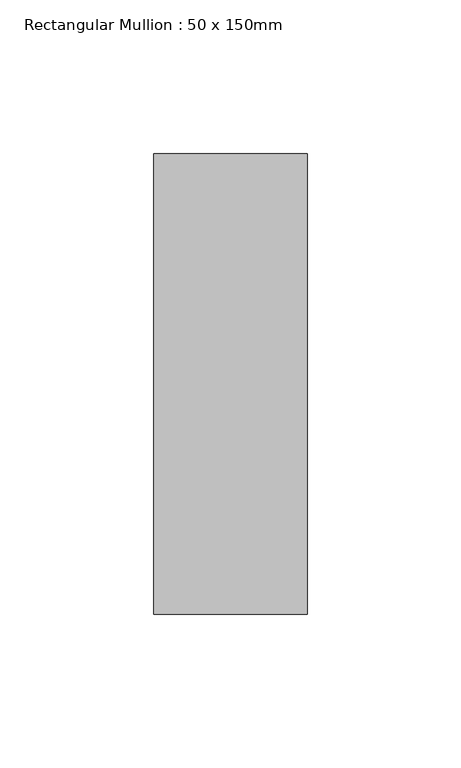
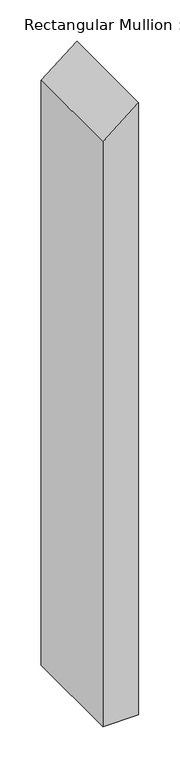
"""IFC4 building model written with IfcOpenShell, lengths in millimetres: member geometry, Rectangular Mullion : 50 x 150mm."""

from ifc_helpers import new_model, si_unit, frame, origin, place, context, project, spatial, polyline, outline, extrude, source, transform, mapped, element, save


def rectangular_mullion_50_x_150mm_b576d631(model_context):
    return source(origin(), model_context, "Body", "SweptSolid", [
        extrude(outline(polyline([(0.0, 0.0), (-39.9711819, -50.0), (-905.1064085, -50.0), (-905.1064085, 0.0), (0.0, 0.0)])), frame((0.0, -75.0, 0.0), z_axis=(0.0, 1.0, 0.0), x_axis=(0.0, 0.0, 1.0)), (0.0, 0.0, 1.0), 150.0),
    ])


if __name__ == "__main__":
    model = new_model("IFC4")
    model_context = context("Model", 3, world=origin())
    ifc_project = project(units=[si_unit("LENGTHUNIT", "METRE", prefix="MILLI")], contexts=[model_context])
    site = spatial("IfcSite", under=ifc_project)
    building = spatial("IfcBuilding", under=site)
    placement = place(None, origin())
    rectangular_mullion_50_x_150mm_shape = rectangular_mullion_50_x_150mm_b576d631(model_context)
    element("IfcMember", 1, ObjectType="Rectangular Mullion : 50 x 150mm", at=placement, inside=building, context=model_context, shape_type="MappedRepresentation", body=[
        mapped(rectangular_mullion_50_x_150mm_shape, transform((0.0, 0.0, 0.0), x_axis=(1.0, 0.0, 0.0), y_axis=(0.0, 1.0, 0.0), z_axis=(0.0, 0.0, 1.0))),
    ])
    save(model, "model.ifc")
